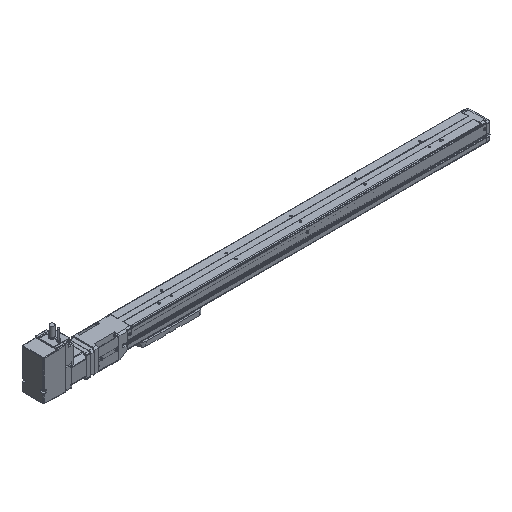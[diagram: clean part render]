
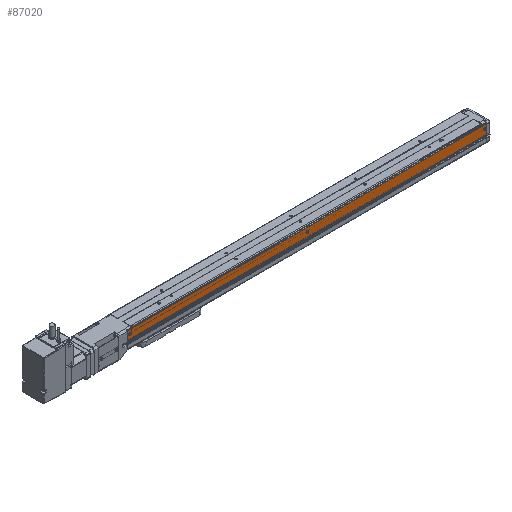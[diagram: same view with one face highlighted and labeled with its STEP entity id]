
A CAD part, isometric view. The second image highlights one B-rep face of the part: STEP entity #87020.
In plain terms, the highlighted planar face has unit normal (0, -1, 0) as drawn and (0, 0, -1) by its records, which use the part's own axes.
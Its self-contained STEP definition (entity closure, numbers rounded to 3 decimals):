
#68400 = PLANE('',#68401);
#68401 = AXIS2_PLACEMENT_3D('',#68402,#68403,#68404);
#68402 = CARTESIAN_POINT('',(-676.5,1.25,21.3));
#68403 = DIRECTION('',(1.,0.,0.));
#68404 = DIRECTION('',(0.,0.,-1.));
#68828 = PLANE('',#68829);
#68829 = AXIS2_PLACEMENT_3D('',#68830,#68831,#68832);
#68830 = CARTESIAN_POINT('',(-9.5,1.25,21.3));
#68831 = DIRECTION('',(1.,0.,0.));
#68832 = DIRECTION('',(0.,0.,-1.));
#86213 = VERTEX_POINT('',#86214);
#86214 = CARTESIAN_POINT('',(-676.5,-2.65,-21.5));
#86231 = CYLINDRICAL_SURFACE('',#86232,0.2);
#86232 = AXIS2_PLACEMENT_3D('',#86233,#86234,#86235);
#86233 = CARTESIAN_POINT('',(-676.5,-2.65,-21.3));
#86234 = DIRECTION('',(1.,0.,0.));
#86235 = DIRECTION('',(0.,0.,-1.));
#86243 = EDGE_CURVE('',#86244,#86213,#86246,.T.);
#86244 = VERTEX_POINT('',#86245);
#86245 = CARTESIAN_POINT('',(-676.5,-20.734,-21.5));
#86246 = SURFACE_CURVE('',#86247,(#86251,#86258),.PCURVE_S1.);
#86247 = LINE('',#86248,#86249);
#86248 = CARTESIAN_POINT('',(-676.5,-20.734,-21.5));
#86249 = VECTOR('',#86250,1.);
#86250 = DIRECTION('',(0.,1.,0.));
#86251 = PCURVE('',#68400,#86252);
#86252 = DEFINITIONAL_REPRESENTATION('',(#86253),#86257);
#86253 = LINE('',#86254,#86255);
#86254 = CARTESIAN_POINT('',(42.8,-21.984));
#86255 = VECTOR('',#86256,1.);
#86256 = DIRECTION('',(0.,1.));
#86257 = ( GEOMETRIC_REPRESENTATION_CONTEXT(2) 
PARAMETRIC_REPRESENTATION_CONTEXT() REPRESENTATION_CONTEXT('2D SPACE',''
  ) );
#86258 = PCURVE('',#86259,#86264);
#86259 = PLANE('',#86260);
#86260 = AXIS2_PLACEMENT_3D('',#86261,#86262,#86263);
#86261 = CARTESIAN_POINT('',(-676.5,-20.734,-21.5));
#86262 = DIRECTION('',(0.,0.,-1.));
#86263 = DIRECTION('',(-1.,0.,0.));
#86264 = DEFINITIONAL_REPRESENTATION('',(#86265),#86269);
#86265 = LINE('',#86266,#86267);
#86266 = CARTESIAN_POINT('',(0.,0.));
#86267 = VECTOR('',#86268,1.);
#86268 = DIRECTION('',(0.,1.));
#86269 = ( GEOMETRIC_REPRESENTATION_CONTEXT(2) 
PARAMETRIC_REPRESENTATION_CONTEXT() REPRESENTATION_CONTEXT('2D SPACE',''
  ) );
#86288 = CYLINDRICAL_SURFACE('',#86289,1.);
#86289 = AXIS2_PLACEMENT_3D('',#86290,#86291,#86292);
#86290 = CARTESIAN_POINT('',(-676.5,-20.734,-20.5));
#86291 = DIRECTION('',(1.,0.,0.));
#86292 = DIRECTION('',(0.,0.,-1.));
#86701 = VERTEX_POINT('',#86702);
#86702 = CARTESIAN_POINT('',(-9.5,-20.734,-21.5));
#86724 = EDGE_CURVE('',#86701,#86725,#86727,.T.);
#86725 = VERTEX_POINT('',#86726);
#86726 = CARTESIAN_POINT('',(-9.5,-2.65,-21.5));
#86727 = SURFACE_CURVE('',#86728,(#86732,#86739),.PCURVE_S1.);
#86728 = LINE('',#86729,#86730);
#86729 = CARTESIAN_POINT('',(-9.5,-20.734,-21.5));
#86730 = VECTOR('',#86731,1.);
#86731 = DIRECTION('',(0.,1.,0.));
#86732 = PCURVE('',#68828,#86733);
#86733 = DEFINITIONAL_REPRESENTATION('',(#86734),#86738);
#86734 = LINE('',#86735,#86736);
#86735 = CARTESIAN_POINT('',(42.8,-21.984));
#86736 = VECTOR('',#86737,1.);
#86737 = DIRECTION('',(0.,1.));
#86738 = ( GEOMETRIC_REPRESENTATION_CONTEXT(2) 
PARAMETRIC_REPRESENTATION_CONTEXT() REPRESENTATION_CONTEXT('2D SPACE',''
  ) );
#86739 = PCURVE('',#86259,#86740);
#86740 = DEFINITIONAL_REPRESENTATION('',(#86741),#86745);
#86741 = LINE('',#86742,#86743);
#86742 = CARTESIAN_POINT('',(-667.,0.));
#86743 = VECTOR('',#86744,1.);
#86744 = DIRECTION('',(0.,1.));
#86745 = ( GEOMETRIC_REPRESENTATION_CONTEXT(2) 
PARAMETRIC_REPRESENTATION_CONTEXT() REPRESENTATION_CONTEXT('2D SPACE',''
  ) );
#87000 = EDGE_CURVE('',#86244,#86701,#87001,.T.);
#87001 = SURFACE_CURVE('',#87002,(#87006,#87013),.PCURVE_S1.);
#87002 = LINE('',#87003,#87004);
#87003 = CARTESIAN_POINT('',(-676.5,-20.734,-21.5));
#87004 = VECTOR('',#87005,1.);
#87005 = DIRECTION('',(1.,0.,0.));
#87006 = PCURVE('',#86288,#87007);
#87007 = DEFINITIONAL_REPRESENTATION('',(#87008),#87012);
#87008 = LINE('',#87009,#87010);
#87009 = CARTESIAN_POINT('',(6.283,0.));
#87010 = VECTOR('',#87011,1.);
#87011 = DIRECTION('',(0.,1.));
#87012 = ( GEOMETRIC_REPRESENTATION_CONTEXT(2) 
PARAMETRIC_REPRESENTATION_CONTEXT() REPRESENTATION_CONTEXT('2D SPACE',''
  ) );
#87013 = PCURVE('',#86259,#87014);
#87014 = DEFINITIONAL_REPRESENTATION('',(#87015),#87019);
#87015 = LINE('',#87016,#87017);
#87016 = CARTESIAN_POINT('',(0.,0.));
#87017 = VECTOR('',#87018,1.);
#87018 = DIRECTION('',(-1.,0.));
#87019 = ( GEOMETRIC_REPRESENTATION_CONTEXT(2) 
PARAMETRIC_REPRESENTATION_CONTEXT() REPRESENTATION_CONTEXT('2D SPACE',''
  ) );
#87020 = ADVANCED_FACE('',(#87021,#87052,#87087,#87122),#86259,.T.);
#87021 = FACE_BOUND('',#87022,.T.);
#87022 = EDGE_LOOP('',(#87023));
#87023 = ORIENTED_EDGE('',*,*,#87024,.F.);
#87024 = EDGE_CURVE('',#87025,#87025,#87027,.T.);
#87025 = VERTEX_POINT('',#87026);
#87026 = CARTESIAN_POINT('',(-345.25,-13.5,-21.5));
#87027 = SURFACE_CURVE('',#87028,(#87033,#87040),.PCURVE_S1.);
#87028 = CIRCLE('',#87029,2.25);
#87029 = AXIS2_PLACEMENT_3D('',#87030,#87031,#87032);
#87030 = CARTESIAN_POINT('',(-343.,-13.5,-21.5));
#87031 = DIRECTION('',(0.,0.,-1.));
#87032 = DIRECTION('',(-1.,0.,0.));
#87033 = PCURVE('',#86259,#87034);
#87034 = DEFINITIONAL_REPRESENTATION('',(#87035),#87039);
#87035 = CIRCLE('',#87036,2.25);
#87036 = AXIS2_PLACEMENT_2D('',#87037,#87038);
#87037 = CARTESIAN_POINT('',(-333.5,7.234));
#87038 = DIRECTION('',(1.,0.));
#87039 = ( GEOMETRIC_REPRESENTATION_CONTEXT(2) 
PARAMETRIC_REPRESENTATION_CONTEXT() REPRESENTATION_CONTEXT('2D SPACE',''
  ) );
#87040 = PCURVE('',#87041,#87046);
#87041 = CONICAL_SURFACE('',#87042,2.25,0.087);
#87042 = AXIS2_PLACEMENT_3D('',#87043,#87044,#87045);
#87043 = CARTESIAN_POINT('',(-343.,-13.5,-21.5));
#87044 = DIRECTION('',(0.,0.,1.));
#87045 = DIRECTION('',(1.,0.,-0.));
#87046 = DEFINITIONAL_REPRESENTATION('',(#87047),#87051);
#87047 = LINE('',#87048,#87049);
#87048 = CARTESIAN_POINT('',(9.425,0.));
#87049 = VECTOR('',#87050,1.);
#87050 = DIRECTION('',(-1.,0.));
#87051 = ( GEOMETRIC_REPRESENTATION_CONTEXT(2) 
PARAMETRIC_REPRESENTATION_CONTEXT() REPRESENTATION_CONTEXT('2D SPACE',''
  ) );
#87052 = FACE_BOUND('',#87053,.T.);
#87053 = EDGE_LOOP('',(#87054));
#87054 = ORIENTED_EDGE('',*,*,#87055,.T.);
#87055 = EDGE_CURVE('',#87056,#87056,#87058,.T.);
#87056 = VERTEX_POINT('',#87057);
#87057 = CARTESIAN_POINT('',(-670.71,-14.5,-21.5));
#87058 = SURFACE_CURVE('',#87059,(#87064,#87075),.PCURVE_S1.);
#87059 = CIRCLE('',#87060,2.29);
#87060 = AXIS2_PLACEMENT_3D('',#87061,#87062,#87063);
#87061 = CARTESIAN_POINT('',(-673.,-14.5,-21.5));
#87062 = DIRECTION('',(0.,0.,1.));
#87063 = DIRECTION('',(1.,0.,-0.));
#87064 = PCURVE('',#86259,#87065);
#87065 = DEFINITIONAL_REPRESENTATION('',(#87066),#87074);
#87066 = ( BOUNDED_CURVE() B_SPLINE_CURVE(2,(#87067,#87068,#87069,#87070
    ,#87071,#87072,#87073),.UNSPECIFIED.,.T.,.F.) 
B_SPLINE_CURVE_WITH_KNOTS((1,2,2,2,2,1),(-2.094,0.,
    2.094,4.189,6.283,8.378),
.UNSPECIFIED.) CURVE() GEOMETRIC_REPRESENTATION_ITEM() 
RATIONAL_B_SPLINE_CURVE((1.,0.5,1.,0.5,1.,0.5,1.)) REPRESENTATION_ITEM(
  '') );
#87067 = CARTESIAN_POINT('',(-5.79,6.234));
#87068 = CARTESIAN_POINT('',(-5.79,10.201));
#87069 = CARTESIAN_POINT('',(-2.355,8.218));
#87070 = CARTESIAN_POINT('',(1.08,6.234));
#87071 = CARTESIAN_POINT('',(-2.355,4.251));
#87072 = CARTESIAN_POINT('',(-5.79,2.268));
#87073 = CARTESIAN_POINT('',(-5.79,6.234));
#87074 = ( GEOMETRIC_REPRESENTATION_CONTEXT(2) 
PARAMETRIC_REPRESENTATION_CONTEXT() REPRESENTATION_CONTEXT('2D SPACE',''
  ) );
#87075 = PCURVE('',#87076,#87081);
#87076 = CONICAL_SURFACE('',#87077,2.221,0.087);
#87077 = AXIS2_PLACEMENT_3D('',#87078,#87079,#87080);
#87078 = CARTESIAN_POINT('',(-673.,-14.5,-22.289));
#87079 = DIRECTION('',(0.,0.,1.));
#87080 = DIRECTION('',(1.,0.,-0.));
#87081 = DEFINITIONAL_REPRESENTATION('',(#87082),#87086);
#87082 = LINE('',#87083,#87084);
#87083 = CARTESIAN_POINT('',(0.,0.789));
#87084 = VECTOR('',#87085,1.);
#87085 = DIRECTION('',(1.,0.));
#87086 = ( GEOMETRIC_REPRESENTATION_CONTEXT(2) 
PARAMETRIC_REPRESENTATION_CONTEXT() REPRESENTATION_CONTEXT('2D SPACE',''
  ) );
#87087 = FACE_BOUND('',#87088,.T.);
#87088 = EDGE_LOOP('',(#87089));
#87089 = ORIENTED_EDGE('',*,*,#87090,.T.);
#87090 = EDGE_CURVE('',#87091,#87091,#87093,.T.);
#87091 = VERTEX_POINT('',#87092);
#87092 = CARTESIAN_POINT('',(-10.71,-14.5,-21.5));
#87093 = SURFACE_CURVE('',#87094,(#87099,#87110),.PCURVE_S1.);
#87094 = CIRCLE('',#87095,2.29);
#87095 = AXIS2_PLACEMENT_3D('',#87096,#87097,#87098);
#87096 = CARTESIAN_POINT('',(-13.,-14.5,-21.5));
#87097 = DIRECTION('',(0.,0.,1.));
#87098 = DIRECTION('',(1.,0.,-0.));
#87099 = PCURVE('',#86259,#87100);
#87100 = DEFINITIONAL_REPRESENTATION('',(#87101),#87109);
#87101 = ( BOUNDED_CURVE() B_SPLINE_CURVE(2,(#87102,#87103,#87104,#87105
    ,#87106,#87107,#87108),.UNSPECIFIED.,.T.,.F.) 
B_SPLINE_CURVE_WITH_KNOTS((1,2,2,2,2,1),(-2.094,0.,
    2.094,4.189,6.283,8.378),
.UNSPECIFIED.) CURVE() GEOMETRIC_REPRESENTATION_ITEM() 
RATIONAL_B_SPLINE_CURVE((1.,0.5,1.,0.5,1.,0.5,1.)) REPRESENTATION_ITEM(
  '') );
#87102 = CARTESIAN_POINT('',(-665.79,6.234));
#87103 = CARTESIAN_POINT('',(-665.79,10.201));
#87104 = CARTESIAN_POINT('',(-662.355,8.218));
#87105 = CARTESIAN_POINT('',(-658.92,6.234));
#87106 = CARTESIAN_POINT('',(-662.355,4.251));
#87107 = CARTESIAN_POINT('',(-665.79,2.268));
#87108 = CARTESIAN_POINT('',(-665.79,6.234));
#87109 = ( GEOMETRIC_REPRESENTATION_CONTEXT(2) 
PARAMETRIC_REPRESENTATION_CONTEXT() REPRESENTATION_CONTEXT('2D SPACE',''
  ) );
#87110 = PCURVE('',#87111,#87116);
#87111 = CONICAL_SURFACE('',#87112,2.221,0.087);
#87112 = AXIS2_PLACEMENT_3D('',#87113,#87114,#87115);
#87113 = CARTESIAN_POINT('',(-13.,-14.5,-22.289));
#87114 = DIRECTION('',(0.,0.,1.));
#87115 = DIRECTION('',(1.,0.,-0.));
#87116 = DEFINITIONAL_REPRESENTATION('',(#87117),#87121);
#87117 = LINE('',#87118,#87119);
#87118 = CARTESIAN_POINT('',(0.,0.789));
#87119 = VECTOR('',#87120,1.);
#87120 = DIRECTION('',(1.,0.));
#87121 = ( GEOMETRIC_REPRESENTATION_CONTEXT(2) 
PARAMETRIC_REPRESENTATION_CONTEXT() REPRESENTATION_CONTEXT('2D SPACE',''
  ) );
#87122 = FACE_BOUND('',#87123,.T.);
#87123 = EDGE_LOOP('',(#87124,#87125,#87126,#87127));
#87124 = ORIENTED_EDGE('',*,*,#86724,.F.);
#87125 = ORIENTED_EDGE('',*,*,#87000,.F.);
#87126 = ORIENTED_EDGE('',*,*,#86243,.T.);
#87127 = ORIENTED_EDGE('',*,*,#87128,.T.);
#87128 = EDGE_CURVE('',#86213,#86725,#87129,.T.);
#87129 = SURFACE_CURVE('',#87130,(#87134,#87141),.PCURVE_S1.);
#87130 = LINE('',#87131,#87132);
#87131 = CARTESIAN_POINT('',(-676.5,-2.65,-21.5));
#87132 = VECTOR('',#87133,1.);
#87133 = DIRECTION('',(1.,0.,0.));
#87134 = PCURVE('',#86259,#87135);
#87135 = DEFINITIONAL_REPRESENTATION('',(#87136),#87140);
#87136 = LINE('',#87137,#87138);
#87137 = CARTESIAN_POINT('',(0.,18.084));
#87138 = VECTOR('',#87139,1.);
#87139 = DIRECTION('',(-1.,0.));
#87140 = ( GEOMETRIC_REPRESENTATION_CONTEXT(2) 
PARAMETRIC_REPRESENTATION_CONTEXT() REPRESENTATION_CONTEXT('2D SPACE',''
  ) );
#87141 = PCURVE('',#86231,#87142);
#87142 = DEFINITIONAL_REPRESENTATION('',(#87143),#87147);
#87143 = LINE('',#87144,#87145);
#87144 = CARTESIAN_POINT('',(0.,0.));
#87145 = VECTOR('',#87146,1.);
#87146 = DIRECTION('',(0.,1.));
#87147 = ( GEOMETRIC_REPRESENTATION_CONTEXT(2) 
PARAMETRIC_REPRESENTATION_CONTEXT() REPRESENTATION_CONTEXT('2D SPACE',''
  ) );
